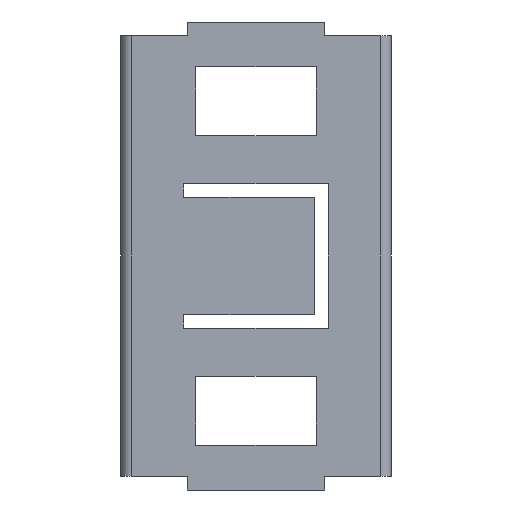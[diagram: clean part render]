
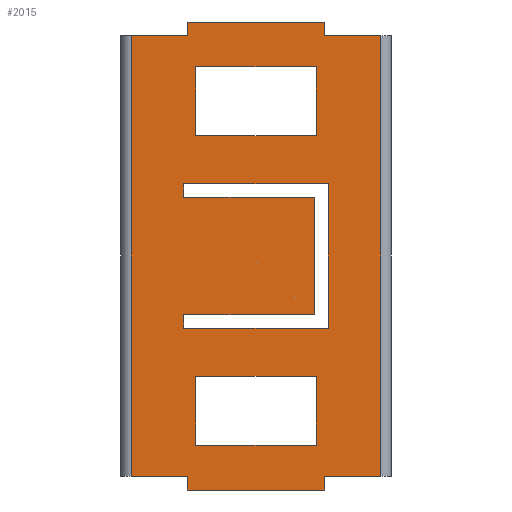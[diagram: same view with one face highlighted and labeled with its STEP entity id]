
A CAD part, front view. The second image highlights one B-rep face of the part: STEP entity #2015.
In plain terms, the highlighted planar face has unit normal (0, -1, 0).
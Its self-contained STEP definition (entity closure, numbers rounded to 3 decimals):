
#22 = VERTEX_POINT('',#23);
#23 = CARTESIAN_POINT('',(-21.,-17.75,17.));
#31 = EDGE_CURVE('',#22,#32,#34,.T.);
#32 = VERTEX_POINT('',#33);
#33 = CARTESIAN_POINT('',(-21.,-17.75,21.));
#34 = LINE('',#35,#36);
#35 = CARTESIAN_POINT('',(-21.,-17.75,-42.5));
#36 = VECTOR('',#37,1.);
#37 = DIRECTION('',(0.,0.,1.));
#56 = VERTEX_POINT('',#57);
#57 = CARTESIAN_POINT('',(-21.,-17.75,-21.));
#63 = EDGE_CURVE('',#56,#64,#66,.T.);
#64 = VERTEX_POINT('',#65);
#65 = CARTESIAN_POINT('',(-21.,-17.75,-17.));
#66 = LINE('',#67,#68);
#67 = CARTESIAN_POINT('',(-21.,-17.75,-42.5));
#68 = VECTOR('',#69,1.);
#69 = DIRECTION('',(0.,0.,1.));
#110 = EDGE_CURVE('',#111,#22,#113,.T.);
#111 = VERTEX_POINT('',#112);
#112 = CARTESIAN_POINT('',(17.,-17.75,17.));
#113 = LINE('',#114,#115);
#114 = CARTESIAN_POINT('',(17.,-17.75,17.));
#115 = VECTOR('',#116,1.);
#116 = DIRECTION('',(-1.,0.,0.));
#197 = VERTEX_POINT('',#198);
#198 = CARTESIAN_POINT('',(17.,-17.75,-17.));
#204 = EDGE_CURVE('',#64,#197,#205,.T.);
#205 = LINE('',#206,#207);
#206 = CARTESIAN_POINT('',(-21.,-17.75,-17.));
#207 = VECTOR('',#208,1.);
#208 = DIRECTION('',(1.,0.,0.));
#229 = EDGE_CURVE('',#32,#230,#232,.T.);
#230 = VERTEX_POINT('',#231);
#231 = CARTESIAN_POINT('',(21.,-17.75,21.));
#232 = LINE('',#233,#234);
#233 = CARTESIAN_POINT('',(-30.125,-17.75,21.));
#234 = VECTOR('',#235,1.);
#235 = DIRECTION('',(1.,0.,0.));
#411 = VERTEX_POINT('',#412);
#412 = CARTESIAN_POINT('',(21.,-17.75,-21.));
#418 = EDGE_CURVE('',#411,#56,#419,.T.);
#419 = LINE('',#420,#421);
#420 = CARTESIAN_POINT('',(-9.125,-17.75,-21.));
#421 = VECTOR('',#422,1.);
#422 = DIRECTION('',(-1.,0.,0.));
#458 = EDGE_CURVE('',#197,#111,#459,.T.);
#459 = LINE('',#460,#461);
#460 = CARTESIAN_POINT('',(17.,-17.75,-17.));
#461 = VECTOR('',#462,1.);
#462 = DIRECTION('',(0.,0.,1.));
#521 = VERTEX_POINT('',#522);
#522 = CARTESIAN_POINT('',(-36.25,-17.75,-64.));
#529 = EDGE_CURVE('',#521,#530,#532,.T.);
#530 = VERTEX_POINT('',#531);
#531 = CARTESIAN_POINT('',(-20.,-17.75,-64.));
#532 = LINE('',#533,#534);
#533 = CARTESIAN_POINT('',(-39.25,-17.75,-64.));
#534 = VECTOR('',#535,1.);
#535 = DIRECTION('',(1.,0.,0.));
#593 = VERTEX_POINT('',#594);
#594 = CARTESIAN_POINT('',(20.,-17.75,-64.));
#600 = EDGE_CURVE('',#593,#601,#603,.T.);
#601 = VERTEX_POINT('',#602);
#602 = CARTESIAN_POINT('',(36.25,-17.75,-64.));
#603 = LINE('',#604,#605);
#604 = CARTESIAN_POINT('',(-39.25,-17.75,-64.));
#605 = VECTOR('',#606,1.);
#606 = DIRECTION('',(1.,0.,0.));
#693 = VERTEX_POINT('',#694);
#694 = CARTESIAN_POINT('',(36.25,-17.75,64.));
#701 = EDGE_CURVE('',#601,#693,#702,.T.);
#702 = LINE('',#703,#704);
#703 = CARTESIAN_POINT('',(36.25,-17.75,-64.));
#704 = VECTOR('',#705,1.);
#705 = DIRECTION('',(0.,0.,1.));
#716 = VERTEX_POINT('',#717);
#717 = CARTESIAN_POINT('',(20.,-17.75,64.));
#723 = EDGE_CURVE('',#716,#693,#724,.T.);
#724 = LINE('',#725,#726);
#725 = CARTESIAN_POINT('',(-39.25,-17.75,64.));
#726 = VECTOR('',#727,1.);
#727 = DIRECTION('',(1.,0.,0.));
#796 = EDGE_CURVE('',#716,#797,#799,.T.);
#797 = VERTEX_POINT('',#798);
#798 = CARTESIAN_POINT('',(20.,-17.75,68.));
#799 = LINE('',#800,#801);
#800 = CARTESIAN_POINT('',(20.,-17.75,64.));
#801 = VECTOR('',#802,1.);
#802 = DIRECTION('',(0.,0.,1.));
#835 = EDGE_CURVE('',#836,#797,#838,.T.);
#836 = VERTEX_POINT('',#837);
#837 = CARTESIAN_POINT('',(-20.,-17.75,68.));
#838 = LINE('',#839,#840);
#839 = CARTESIAN_POINT('',(-20.,-17.75,68.));
#840 = VECTOR('',#841,1.);
#841 = DIRECTION('',(1.,0.,0.));
#866 = EDGE_CURVE('',#867,#836,#869,.T.);
#867 = VERTEX_POINT('',#868);
#868 = CARTESIAN_POINT('',(-20.,-17.75,64.));
#869 = LINE('',#870,#871);
#870 = CARTESIAN_POINT('',(-20.,-17.75,64.));
#871 = VECTOR('',#872,1.);
#872 = DIRECTION('',(0.,0.,1.));
#922 = VERTEX_POINT('',#923);
#923 = CARTESIAN_POINT('',(-36.25,-17.75,64.));
#930 = EDGE_CURVE('',#922,#867,#931,.T.);
#931 = LINE('',#932,#933);
#932 = CARTESIAN_POINT('',(-39.25,-17.75,64.));
#933 = VECTOR('',#934,1.);
#934 = DIRECTION('',(1.,0.,0.));
#969 = EDGE_CURVE('',#521,#922,#970,.T.);
#970 = LINE('',#971,#972);
#971 = CARTESIAN_POINT('',(-36.25,-17.75,-64.));
#972 = VECTOR('',#973,1.);
#973 = DIRECTION('',(0.,0.,1.));
#985 = EDGE_CURVE('',#230,#411,#986,.T.);
#986 = LINE('',#987,#988);
#987 = CARTESIAN_POINT('',(21.,-17.75,-21.5));
#988 = VECTOR('',#989,1.);
#989 = DIRECTION('',(0.,0.,-1.));
#1002 = VERTEX_POINT('',#1003);
#1003 = CARTESIAN_POINT('',(17.5,-17.75,-55.));
#1009 = EDGE_CURVE('',#1002,#1010,#1012,.T.);
#1010 = VERTEX_POINT('',#1011);
#1011 = CARTESIAN_POINT('',(17.5,-17.75,-35.));
#1012 = LINE('',#1013,#1014);
#1013 = CARTESIAN_POINT('',(17.5,-17.75,-59.5));
#1014 = VECTOR('',#1015,1.);
#1015 = DIRECTION('',(0.,0.,1.));
#1033 = VERTEX_POINT('',#1034);
#1034 = CARTESIAN_POINT('',(-17.5,-17.75,-55.));
#1040 = EDGE_CURVE('',#1033,#1002,#1041,.T.);
#1041 = LINE('',#1042,#1043);
#1042 = CARTESIAN_POINT('',(-28.375,-17.75,-55.));
#1043 = VECTOR('',#1044,1.);
#1044 = DIRECTION('',(1.,0.,0.));
#1057 = VERTEX_POINT('',#1058);
#1058 = CARTESIAN_POINT('',(-17.5,-17.75,-35.));
#1064 = EDGE_CURVE('',#1057,#1033,#1065,.T.);
#1065 = LINE('',#1066,#1067);
#1066 = CARTESIAN_POINT('',(-17.5,-17.75,-49.5));
#1067 = VECTOR('',#1068,1.);
#1068 = DIRECTION('',(0.,0.,-1.));
#1081 = EDGE_CURVE('',#1010,#1057,#1082,.T.);
#1082 = LINE('',#1083,#1084);
#1083 = CARTESIAN_POINT('',(-10.875,-17.75,-35.));
#1084 = VECTOR('',#1085,1.);
#1085 = DIRECTION('',(-1.,0.,0.));
#1098 = VERTEX_POINT('',#1099);
#1099 = CARTESIAN_POINT('',(17.5,-17.75,35.));
#1105 = EDGE_CURVE('',#1098,#1106,#1108,.T.);
#1106 = VERTEX_POINT('',#1107);
#1107 = CARTESIAN_POINT('',(-17.5,-17.75,35.));
#1108 = LINE('',#1109,#1110);
#1109 = CARTESIAN_POINT('',(-10.875,-17.75,35.));
#1110 = VECTOR('',#1111,1.);
#1111 = DIRECTION('',(-1.,0.,0.));
#1129 = EDGE_CURVE('',#1106,#1130,#1132,.T.);
#1130 = VERTEX_POINT('',#1131);
#1131 = CARTESIAN_POINT('',(-17.5,-17.75,55.));
#1132 = LINE('',#1133,#1134);
#1133 = CARTESIAN_POINT('',(-17.5,-17.75,-14.5));
#1134 = VECTOR('',#1135,1.);
#1135 = DIRECTION('',(0.,0.,1.));
#1153 = EDGE_CURVE('',#1130,#1154,#1156,.T.);
#1154 = VERTEX_POINT('',#1155);
#1155 = CARTESIAN_POINT('',(17.5,-17.75,55.));
#1156 = LINE('',#1157,#1158);
#1157 = CARTESIAN_POINT('',(-28.375,-17.75,55.));
#1158 = VECTOR('',#1159,1.);
#1159 = DIRECTION('',(1.,0.,0.));
#1177 = EDGE_CURVE('',#1154,#1098,#1178,.T.);
#1178 = LINE('',#1179,#1180);
#1179 = CARTESIAN_POINT('',(17.5,-17.75,-4.5));
#1180 = VECTOR('',#1181,1.);
#1181 = DIRECTION('',(0.,0.,-1.));
#1412 = EDGE_CURVE('',#530,#1413,#1415,.T.);
#1413 = VERTEX_POINT('',#1414);
#1414 = CARTESIAN_POINT('',(-20.,-17.75,-68.));
#1415 = LINE('',#1416,#1417);
#1416 = CARTESIAN_POINT('',(-20.,-17.75,-64.));
#1417 = VECTOR('',#1418,1.);
#1418 = DIRECTION('',(-0.,-0.,-1.));
#1486 = EDGE_CURVE('',#1413,#1487,#1489,.T.);
#1487 = VERTEX_POINT('',#1488);
#1488 = CARTESIAN_POINT('',(20.,-17.75,-68.));
#1489 = LINE('',#1490,#1491);
#1490 = CARTESIAN_POINT('',(-20.,-17.75,-68.));
#1491 = VECTOR('',#1492,1.);
#1492 = DIRECTION('',(1.,0.,0.));
#1517 = EDGE_CURVE('',#593,#1487,#1518,.T.);
#1518 = LINE('',#1519,#1520);
#1519 = CARTESIAN_POINT('',(20.,-17.75,-64.));
#1520 = VECTOR('',#1521,1.);
#1521 = DIRECTION('',(-0.,-0.,-1.));
#2015 = ADVANCED_FACE('',(#2016,#2030,#2040,#2046),#2052,.T.);
#2016 = FACE_BOUND('',#2017,.T.);
#2017 = EDGE_LOOP('',(#2018,#2019,#2020,#2021,#2022,#2023,#2024,#2025,
    #2026,#2027,#2028,#2029));
#2018 = ORIENTED_EDGE('',*,*,#529,.T.);
#2019 = ORIENTED_EDGE('',*,*,#1412,.T.);
#2020 = ORIENTED_EDGE('',*,*,#1486,.T.);
#2021 = ORIENTED_EDGE('',*,*,#1517,.F.);
#2022 = ORIENTED_EDGE('',*,*,#600,.T.);
#2023 = ORIENTED_EDGE('',*,*,#701,.T.);
#2024 = ORIENTED_EDGE('',*,*,#723,.F.);
#2025 = ORIENTED_EDGE('',*,*,#796,.T.);
#2026 = ORIENTED_EDGE('',*,*,#835,.F.);
#2027 = ORIENTED_EDGE('',*,*,#866,.F.);
#2028 = ORIENTED_EDGE('',*,*,#930,.F.);
#2029 = ORIENTED_EDGE('',*,*,#969,.F.);
#2030 = FACE_BOUND('',#2031,.T.);
#2031 = EDGE_LOOP('',(#2032,#2033,#2034,#2035,#2036,#2037,#2038,#2039));
#2032 = ORIENTED_EDGE('',*,*,#418,.T.);
#2033 = ORIENTED_EDGE('',*,*,#63,.T.);
#2034 = ORIENTED_EDGE('',*,*,#204,.T.);
#2035 = ORIENTED_EDGE('',*,*,#458,.T.);
#2036 = ORIENTED_EDGE('',*,*,#110,.T.);
#2037 = ORIENTED_EDGE('',*,*,#31,.T.);
#2038 = ORIENTED_EDGE('',*,*,#229,.T.);
#2039 = ORIENTED_EDGE('',*,*,#985,.T.);
#2040 = FACE_BOUND('',#2041,.T.);
#2041 = EDGE_LOOP('',(#2042,#2043,#2044,#2045));
#2042 = ORIENTED_EDGE('',*,*,#1009,.F.);
#2043 = ORIENTED_EDGE('',*,*,#1040,.F.);
#2044 = ORIENTED_EDGE('',*,*,#1064,.F.);
#2045 = ORIENTED_EDGE('',*,*,#1081,.F.);
#2046 = FACE_BOUND('',#2047,.T.);
#2047 = EDGE_LOOP('',(#2048,#2049,#2050,#2051));
#2048 = ORIENTED_EDGE('',*,*,#1105,.T.);
#2049 = ORIENTED_EDGE('',*,*,#1129,.T.);
#2050 = ORIENTED_EDGE('',*,*,#1153,.T.);
#2051 = ORIENTED_EDGE('',*,*,#1177,.T.);
#2052 = PLANE('',#2053);
#2053 = AXIS2_PLACEMENT_3D('',#2054,#2055,#2056);
#2054 = CARTESIAN_POINT('',(0.,-17.75,0.));
#2055 = DIRECTION('',(-0.,-1.,-0.));
#2056 = DIRECTION('',(0.,0.,-1.));
